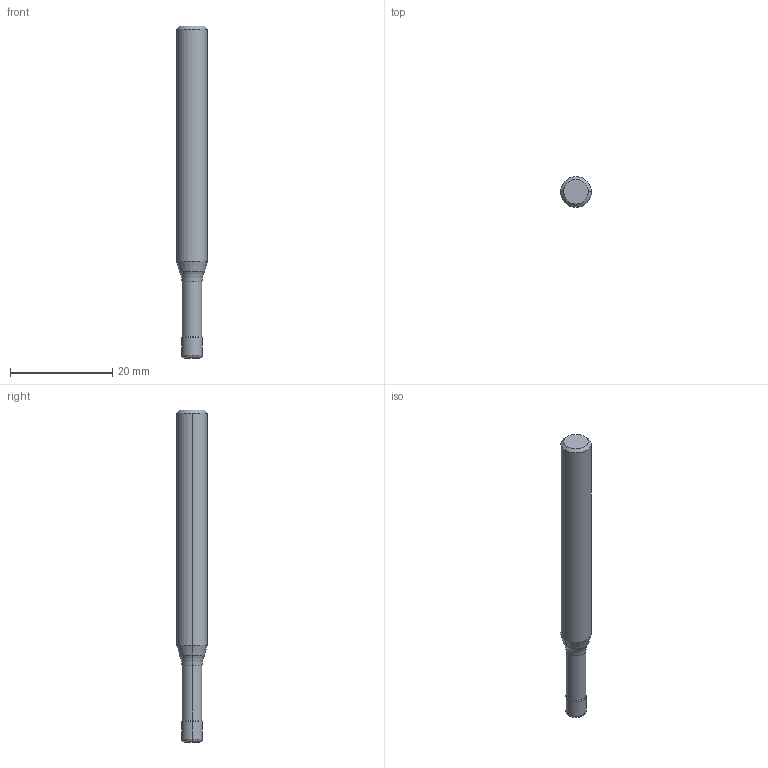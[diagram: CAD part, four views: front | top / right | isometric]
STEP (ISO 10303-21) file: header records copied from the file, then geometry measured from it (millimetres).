
FILE_DESCRIPTION (( 'STEP AP214' ), '1' );
FILE_NAME ('558.400.11_3D-model.step', '2022-02-18T14:58:27', ( '' ), ( '' ), 'SwSTEP 2.0', 'SolidWorks 2020', '' );
FILE_SCHEMA (( 'AUTOMOTIVE_DESIGN' ));
Length unit declared in the file: millimetre
Products named in the file (3): 558.400.11_3D-model; CUT-3D^Baugr94; NOCUT-3D^Baugr94
Assembly tree (2 placements, depth 2):
  558.400.11_3D-model
    CUT-3D^Baugr94
    NOCUT-3D^Baugr94
Bounding box: 6 x 6 x 65 mm (x, y, z)
Volume: 1554.8 mm3; surface area: 1172.1 mm2
Topology: 2 solids, 2 shells, 20 faces, 36 edges, 20 vertices
Faces by surface type: cylinder 6, cone 6, torus 4, plane 4
Entity records: 610 total; most frequent: DIRECTION 116, CARTESIAN_POINT 84, ORIENTED_EDGE 72, AXIS2_PLACEMENT_3D 52, EDGE_CURVE 36, CIRCLE 24, ADVANCED_FACE 20, VERTEX_POINT 20
